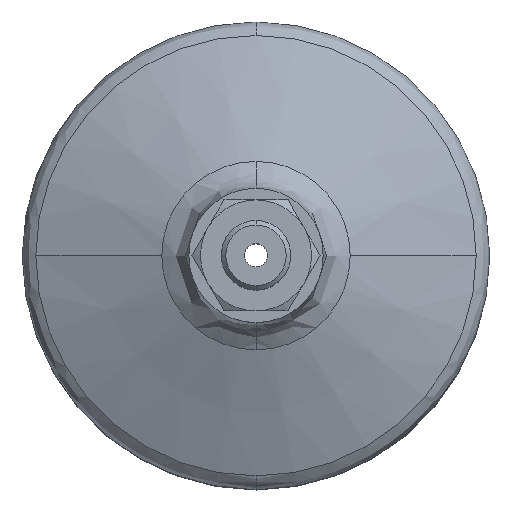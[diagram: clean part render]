
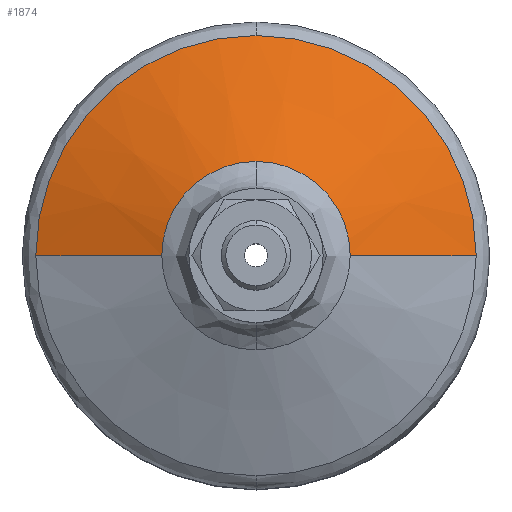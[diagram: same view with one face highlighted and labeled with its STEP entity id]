
A CAD part, top view. The second image highlights one B-rep face of the part: STEP entity #1874.
In plain terms, the highlighted conical face has half-angle 68.9 degrees and reference radius 41.637 mm.
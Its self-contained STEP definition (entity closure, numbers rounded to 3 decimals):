
#54 = LINE ( 'NONE', #2400, #1282 ) ;
#405 = AXIS2_PLACEMENT_3D ( 'NONE', #2732, #2740, #2762 ) ;
#644 = VERTEX_POINT ( 'NONE', #2430 ) ;
#732 = DIRECTION ( 'NONE',  ( -1., 0., 0. ) ) ;
#764 = ORIENTED_EDGE ( 'NONE', *, *, #2319, .T. ) ;
#844 = CARTESIAN_POINT ( 'NONE',  ( 0., 0., 64.232 ) ) ;
#1061 = VERTEX_POINT ( 'NONE', #1485 ) ;
#1151 = DIRECTION ( 'NONE',  ( -0.933, 0., -0.36 ) ) ;
#1234 = FACE_OUTER_BOUND ( 'NONE', #2022, .T. ) ;
#1255 = CARTESIAN_POINT ( 'NONE',  ( 0., 0., 73.423 ) ) ;
#1263 = DIRECTION ( 'NONE',  ( 0., 0., -1. ) ) ;
#1264 = CONICAL_SURFACE ( 'NONE', #1803, 41.637, 1.203 ) ;
#1270 = DIRECTION ( 'NONE',  ( 0., 1., 0. ) ) ;
#1282 = VECTOR ( 'NONE', #1151, 1000. ) ;
#1324 = ORIENTED_EDGE ( 'NONE', *, *, #3203, .T. ) ;
#1361 = CIRCLE ( 'NONE', #3098, 17.817 ) ;
#1485 = CARTESIAN_POINT ( 'NONE',  ( 0., 17.817, 73.423 ) ) ;
#1506 = LINE ( 'NONE', #3086, #1525 ) ;
#1524 = CIRCLE ( 'NONE', #3268, 41.637 ) ;
#1525 = VECTOR ( 'NONE', #2308, 1000. ) ;
#1706 = CIRCLE ( 'NONE', #405, 17.817 ) ;
#1803 = AXIS2_PLACEMENT_3D ( 'NONE', #2490, #2622, #732 ) ;
#1874 = ADVANCED_FACE ( 'NONE', ( #1234 ), #1264, .T. ) ;
#1906 = AXIS2_PLACEMENT_3D ( 'NONE', #2053, #3037, #2068 ) ;
#1974 = EDGE_CURVE ( 'NONE', #2737, #3324, #54, .T. ) ;
#1980 = EDGE_CURVE ( 'NONE', #2055, #3324, #3284, .T. ) ;
#1985 = CARTESIAN_POINT ( 'NONE',  ( -41.637, 0., 64.232 ) ) ;
#2022 = EDGE_LOOP ( 'NONE', ( #764, #1324, #3296, #2041, #2220, #2152 ) ) ;
#2041 = ORIENTED_EDGE ( 'NONE', *, *, #2664, .T. ) ;
#2053 = CARTESIAN_POINT ( 'NONE',  ( 0., 0., 64.232 ) ) ;
#2054 = CARTESIAN_POINT ( 'NONE',  ( 0., 41.637, 64.232 ) ) ;
#2055 = VERTEX_POINT ( 'NONE', #2054 ) ;
#2068 = DIRECTION ( 'NONE',  ( 1., 0., 0. ) ) ;
#2152 = ORIENTED_EDGE ( 'NONE', *, *, #1974, .F. ) ;
#2220 = ORIENTED_EDGE ( 'NONE', *, *, #1980, .T. ) ;
#2305 = DIRECTION ( 'NONE',  ( 0., 0., 1. ) ) ;
#2308 = DIRECTION ( 'NONE',  ( 0.933, 0., -0.36 ) ) ;
#2316 = DIRECTION ( 'NONE',  ( 1., 0., 0. ) ) ;
#2319 = EDGE_CURVE ( 'NONE', #2737, #1061, #1361, .T. ) ;
#2400 = CARTESIAN_POINT ( 'NONE',  ( -41.637, 0., 64.232 ) ) ;
#2430 = CARTESIAN_POINT ( 'NONE',  ( 41.637, 0., 64.232 ) ) ;
#2490 = CARTESIAN_POINT ( 'NONE',  ( 0., 0., 64.232 ) ) ;
#2611 = EDGE_CURVE ( 'NONE', #3210, #644, #1506, .T. ) ;
#2622 = DIRECTION ( 'NONE',  ( 0., 0., -1. ) ) ;
#2664 = EDGE_CURVE ( 'NONE', #644, #2055, #1524, .T. ) ;
#2732 = CARTESIAN_POINT ( 'NONE',  ( 0., 0., 73.423 ) ) ;
#2737 = VERTEX_POINT ( 'NONE', #2911 ) ;
#2740 = DIRECTION ( 'NONE',  ( 0., 0., -1. ) ) ;
#2762 = DIRECTION ( 'NONE',  ( 0., 1., 0. ) ) ;
#2796 = CARTESIAN_POINT ( 'NONE',  ( 17.817, 0., 73.423 ) ) ;
#2911 = CARTESIAN_POINT ( 'NONE',  ( -17.817, 0., 73.423 ) ) ;
#3037 = DIRECTION ( 'NONE',  ( 0., 0., 1. ) ) ;
#3086 = CARTESIAN_POINT ( 'NONE',  ( 41.637, 0., 64.232 ) ) ;
#3098 = AXIS2_PLACEMENT_3D ( 'NONE', #1255, #1263, #1270 ) ;
#3203 = EDGE_CURVE ( 'NONE', #1061, #3210, #1706, .T. ) ;
#3210 = VERTEX_POINT ( 'NONE', #2796 ) ;
#3268 = AXIS2_PLACEMENT_3D ( 'NONE', #844, #2305, #2316 ) ;
#3284 = CIRCLE ( 'NONE', #1906, 41.637 ) ;
#3296 = ORIENTED_EDGE ( 'NONE', *, *, #2611, .T. ) ;
#3324 = VERTEX_POINT ( 'NONE', #1985 ) ;
